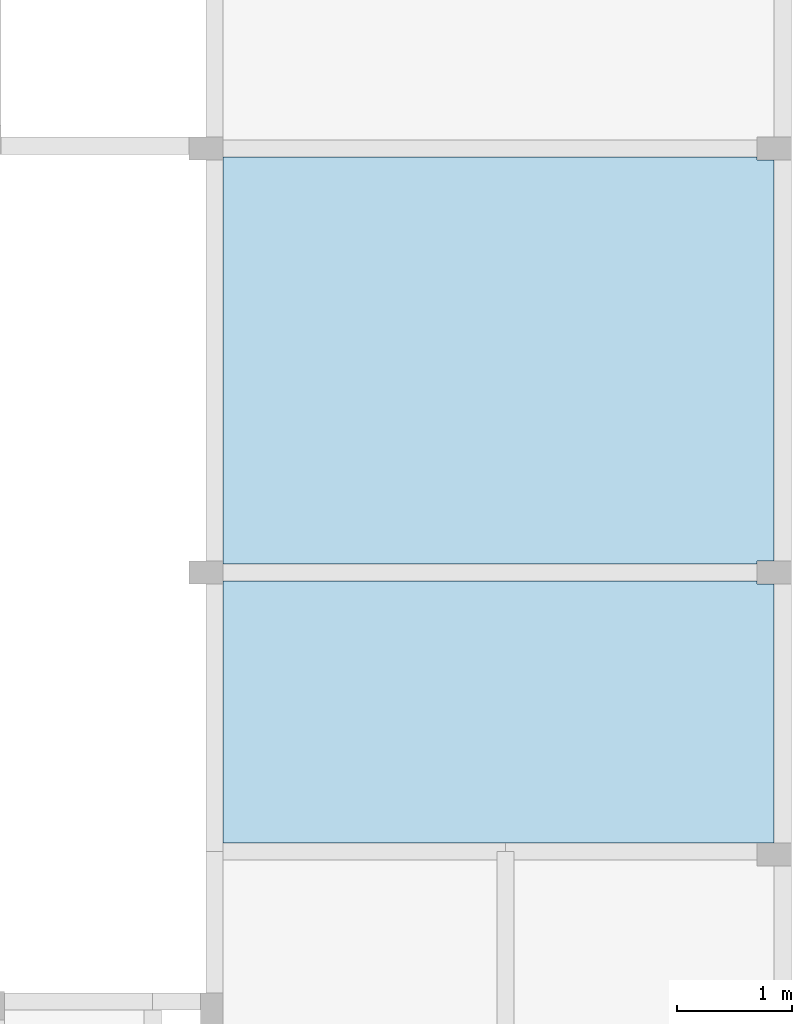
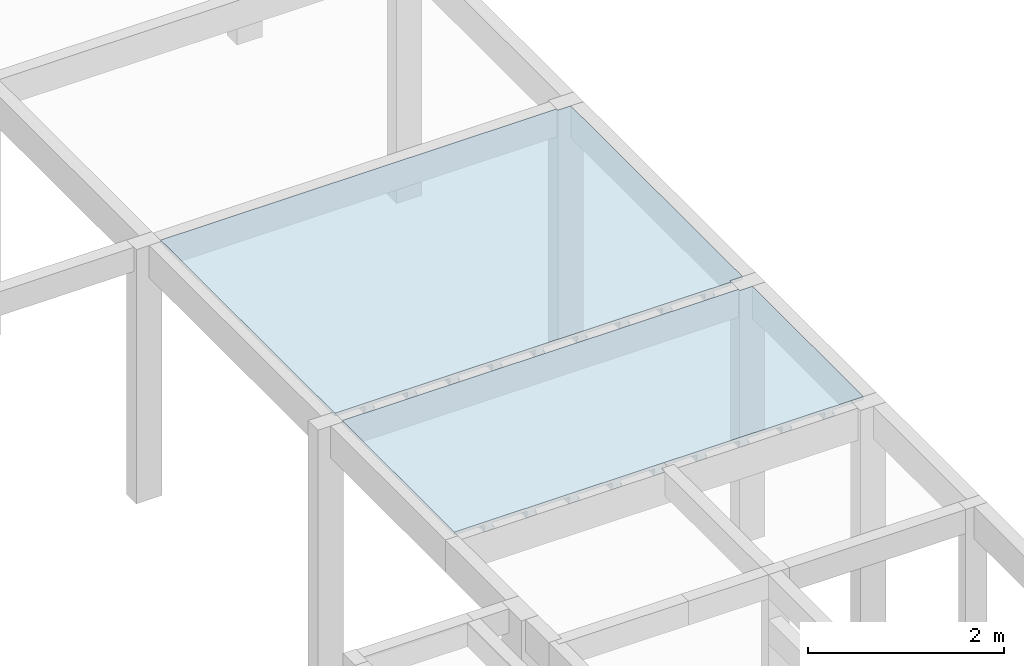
# One storey, part 9 of 11: 2 slabs.
"""IFC4 building model written with IfcOpenShell, lengths in centimetres."""

from ifc_helpers import new_model, si_unit, derived_unit, frame, origin_with_axes, place, context, project, spatial, polyline, outline, extrude, faceted_brep, material, element, save


model = new_model("IFC4")

# Units and contexts
model_context = context("Model", 3, precision=1e-05, world=origin_with_axes(), identifier="Body")
ifc_project = project(units=[si_unit("LENGTHUNIT", "METRE", prefix="CENTI"), si_unit("VOLUMEUNIT", "CUBIC_METRE"), si_unit("AREAUNIT", "SQUARE_METRE"), si_unit("POWERUNIT", "WATT"), si_unit("LUMINOUSFLUXUNIT", "LUMEN"), si_unit("ELECTRICCURRENTUNIT", "AMPERE"), si_unit("PRESSUREUNIT", "PASCAL", prefix="KILO"), si_unit("MASSUNIT", "GRAM", prefix="KILO"), si_unit("PLANEANGLEUNIT", "RADIAN"), derived_unit("VOLUMETRICFLOWRATEUNIT", [(si_unit("LENGTHUNIT", "METRE"), 3), (si_unit("TIMEUNIT", "SECOND"), -1)])], contexts=[model_context])

# Site, building, storey
site_placement = place(None, origin_with_axes())
site = spatial("IfcSite", under=ifc_project, at=site_placement)
building_placement = place(site_placement, frame((0.0, 0.0, -295.0)))
building = spatial("IfcBuilding", under=site, at=building_placement)
placement_1 = place(building_placement, origin_with_axes())
placement_2 = place(placement_1, frame((0.0, 0.0, 101.0), z_axis=(0.0, 0.0, 1.0), x_axis=(1.0, 0.0, 0.0)))
placement_3 = place(placement_2, frame((0.0, 0.0, 204.0), z_axis=(0.0, 0.0, 1.0), x_axis=(1.0, 0.0, 0.0)))
storey_placement = place(placement_3, frame((0.0, 0.0, 292.0), z_axis=(0.0, 0.0, 1.0), x_axis=(1.0, 0.0, 0.0)))
storey = spatial("IfcBuildingStorey", under=building, at=storey_placement, Name="PAVTO 01", CompositionType="ELEMENT", Elevation=302.0)

# Slabs
ifc_material = material(Name="Concreto")
slab_1_placement = place(storey_placement, frame((3761.24, -5953.5495, 0.0), z_axis=(0.0, 0.0, 1.0), x_axis=(1.0, 0.0, 0.0)))
element("IfcSlab", 1, at=slab_1_placement, inside=storey, material=ifc_material, Name="L107", PredefinedType="FLOOR", context=model_context, shape_type="SolidModel", body=[
    extrude(outline(polyline([(225.52, -175.0), (240.51, -175.0), (240.51, 174.999), (225.52, 174.999), (225.52, 177.499), (-240.51, 177.5), (-240.509, -177.499), (225.519, -177.499), (225.52, -175.0), (225.52, -175.0)])), frame((0.0, -0.0005, -4.0), z_axis=(0.0, 0.0, 1.0), x_axis=(1.0, 0.0, 0.0)), (0.0, 0.0, 1.0), 4.0),
    faceted_brep([(-5.0, -177.4995, -12.0), (-5.0, 177.499, -12.0), (5.0, 177.499, -12.0), (5.0, -177.4995, -12.0), (5.0, -177.4995, -4.0), (5.0, 177.499, -4.0), (-5.0, 177.499, -4.0), (-5.0, -177.4995, -4.0)], [[[0, 1, 2, 3]], [[4, 5, 6, 7]], [[4, 3, 5]], [[3, 2, 5]], [[5, 2, 6]], [[2, 1, 6]], [[6, 1, 7]], [[1, 0, 7]], [[7, 0, 4]], [[0, 3, 4]]]),
    faceted_brep([(-6.5, -177.4995, -12.0), (-6.5, 177.499, -12.0), (-5.0, 177.499, -12.0), (-5.0, -177.4995, -12.0), (-5.0, -177.4995, -9.0), (-5.0, 177.499, -9.0), (-6.5, 177.499, -9.0), (-6.5, -177.4995, -9.0)], [[[0, 1, 2, 3]], [[4, 5, 6, 7]], [[4, 3, 5]], [[3, 2, 5]], [[5, 2, 6]], [[2, 1, 6]], [[6, 1, 7]], [[1, 0, 7]], [[7, 0, 4]], [[0, 3, 4]]]),
    faceted_brep([(5.0, -177.4995, -12.0), (5.0, 177.499, -12.0), (6.5, 177.499, -12.0), (6.5, -177.4995, -12.0), (6.5, -177.4995, -9.0), (6.5, 177.499, -9.0), (5.0, 177.499, -9.0), (5.0, -177.4995, -9.0)], [[[0, 1, 2, 3]], [[4, 5, 6, 7]], [[4, 3, 5]], [[3, 2, 5]], [[5, 2, 6]], [[2, 1, 6]], [[6, 1, 7]], [[1, 0, 7]], [[7, 0, 4]], [[0, 3, 4]]]),
    faceted_brep([(-55.0, -177.4995, -12.0), (-55.0, 177.499, -12.0), (-45.0, 177.499, -12.0), (-45.0, -177.4995, -12.0), (-45.0, -177.4995, -4.0), (-45.0, 177.499, -4.0), (-55.0, 177.499, -4.0), (-55.0, -177.4995, -4.0)], [[[0, 1, 2, 3]], [[4, 5, 6, 7]], [[4, 3, 5]], [[3, 2, 5]], [[5, 2, 6]], [[2, 1, 6]], [[6, 1, 7]], [[1, 0, 7]], [[7, 0, 4]], [[0, 3, 4]]]),
    faceted_brep([(-56.5, -177.4995, -12.0), (-56.5, 177.499, -12.0), (-55.0, 177.499, -12.0), (-55.0, -177.4995, -12.0), (-55.0, -177.4995, -9.0), (-55.0, 177.499, -9.0), (-56.5, 177.499, -9.0), (-56.5, -177.4995, -9.0)], [[[0, 1, 2, 3]], [[4, 5, 6, 7]], [[4, 3, 5]], [[3, 2, 5]], [[5, 2, 6]], [[2, 1, 6]], [[6, 1, 7]], [[1, 0, 7]], [[7, 0, 4]], [[0, 3, 4]]]),
    faceted_brep([(-45.0, -177.4995, -12.0), (-45.0, 177.499, -12.0), (-43.5, 177.499, -12.0), (-43.5, -177.4995, -12.0), (-43.5, -177.4995, -9.0), (-43.5, 177.499, -9.0), (-45.0, 177.499, -9.0), (-45.0, -177.4995, -9.0)], [[[0, 1, 2, 3]], [[4, 5, 6, 7]], [[4, 3, 5]], [[3, 2, 5]], [[5, 2, 6]], [[2, 1, 6]], [[6, 1, 7]], [[1, 0, 7]], [[7, 0, 4]], [[0, 3, 4]]]),
    faceted_brep([(-105.0, -177.4995, -12.0), (-105.0, 177.499, -12.0), (-95.0, 177.499, -12.0), (-95.0, -177.4995, -12.0), (-95.0, -177.4995, -4.0), (-95.0, 177.499, -4.0), (-105.0, 177.499, -4.0), (-105.0, -177.4995, -4.0)], [[[0, 1, 2, 3]], [[4, 5, 6, 7]], [[4, 3, 5]], [[3, 2, 5]], [[5, 2, 6]], [[2, 1, 6]], [[6, 1, 7]], [[1, 0, 7]], [[7, 0, 4]], [[0, 3, 4]]]),
    faceted_brep([(-106.5, -177.4995, -12.0), (-106.5, 177.499, -12.0), (-105.0, 177.499, -12.0), (-105.0, -177.4995, -12.0), (-105.0, -177.4995, -9.0), (-105.0, 177.499, -9.0), (-106.5, 177.499, -9.0), (-106.5, -177.4995, -9.0)], [[[0, 1, 2, 3]], [[4, 5, 6, 7]], [[4, 3, 5]], [[3, 2, 5]], [[5, 2, 6]], [[2, 1, 6]], [[6, 1, 7]], [[1, 0, 7]], [[7, 0, 4]], [[0, 3, 4]]]),
    faceted_brep([(-95.0, -177.4995, -12.0), (-95.0, 177.499, -12.0), (-93.5, 177.499, -12.0), (-93.5, -177.4995, -12.0), (-93.5, -177.4995, -9.0), (-93.5, 177.499, -9.0), (-95.0, 177.499, -9.0), (-95.0, -177.4995, -9.0)], [[[0, 1, 2, 3]], [[4, 5, 6, 7]], [[4, 3, 5]], [[3, 2, 5]], [[5, 2, 6]], [[2, 1, 6]], [[6, 1, 7]], [[1, 0, 7]], [[7, 0, 4]], [[0, 3, 4]]]),
    faceted_brep([(-155.0, -177.4995, -12.0), (-155.0, 177.499, -12.0), (-145.0, 177.499, -12.0), (-145.0, -177.4995, -12.0), (-145.0, -177.4995, -4.0), (-145.0, 177.499, -4.0), (-155.0, 177.499, -4.0), (-155.0, -177.4995, -4.0)], [[[0, 1, 2, 3]], [[4, 5, 6, 7]], [[4, 3, 5]], [[3, 2, 5]], [[5, 2, 6]], [[2, 1, 6]], [[6, 1, 7]], [[1, 0, 7]], [[7, 0, 4]], [[0, 3, 4]]]),
    faceted_brep([(-156.5, -177.4995, -12.0), (-156.5, 177.499, -12.0), (-155.0, 177.499, -12.0), (-155.0, -177.4995, -12.0), (-155.0, -177.4995, -9.0), (-155.0, 177.499, -9.0), (-156.5, 177.499, -9.0), (-156.5, -177.4995, -9.0)], [[[0, 1, 2, 3]], [[4, 5, 6, 7]], [[4, 3, 5]], [[3, 2, 5]], [[5, 2, 6]], [[2, 1, 6]], [[6, 1, 7]], [[1, 0, 7]], [[7, 0, 4]], [[0, 3, 4]]]),
    faceted_brep([(-145.0, -177.4995, -12.0), (-145.0, 177.499, -12.0), (-143.5, 177.499, -12.0), (-143.5, -177.4995, -12.0), (-143.5, -177.4995, -9.0), (-143.5, 177.499, -9.0), (-145.0, 177.499, -9.0), (-145.0, -177.4995, -9.0)], [[[0, 1, 2, 3]], [[4, 5, 6, 7]], [[4, 3, 5]], [[3, 2, 5]], [[5, 2, 6]], [[2, 1, 6]], [[6, 1, 7]], [[1, 0, 7]], [[7, 0, 4]], [[0, 3, 4]]]),
    faceted_brep([(-205.0, -177.4995, -12.0), (-205.0, 177.499, -12.0), (-195.0, 177.499, -12.0), (-195.0, -177.4995, -12.0), (-195.0, -177.4995, -4.0), (-195.0, 177.499, -4.0), (-205.0, 177.499, -4.0), (-205.0, -177.4995, -4.0)], [[[0, 1, 2, 3]], [[4, 5, 6, 7]], [[4, 3, 5]], [[3, 2, 5]], [[5, 2, 6]], [[2, 1, 6]], [[6, 1, 7]], [[1, 0, 7]], [[7, 0, 4]], [[0, 3, 4]]]),
    faceted_brep([(-206.5, -177.4995, -12.0), (-206.5, 177.499, -12.0), (-205.0, 177.499, -12.0), (-205.0, -177.4995, -12.0), (-205.0, -177.4995, -9.0), (-205.0, 177.499, -9.0), (-206.5, 177.499, -9.0), (-206.5, -177.4995, -9.0)], [[[0, 1, 2, 3]], [[4, 5, 6, 7]], [[4, 3, 5]], [[3, 2, 5]], [[5, 2, 6]], [[2, 1, 6]], [[6, 1, 7]], [[1, 0, 7]], [[7, 0, 4]], [[0, 3, 4]]]),
    faceted_brep([(-195.0, -177.4995, -12.0), (-195.0, 177.499, -12.0), (-193.5, 177.499, -12.0), (-193.5, -177.4995, -12.0), (-193.5, -177.4995, -9.0), (-193.5, 177.499, -9.0), (-195.0, 177.499, -9.0), (-195.0, -177.4995, -9.0)], [[[0, 1, 2, 3]], [[4, 5, 6, 7]], [[4, 3, 5]], [[3, 2, 5]], [[5, 2, 6]], [[2, 1, 6]], [[6, 1, 7]], [[1, 0, 7]], [[7, 0, 4]], [[0, 3, 4]]]),
    faceted_brep([(45.0, -177.4995, -12.0), (45.0, 177.499, -12.0), (55.0, 177.499, -12.0), (55.0, -177.4995, -12.0), (55.0, -177.4995, -4.0), (55.0, 177.499, -4.0), (45.0, 177.499, -4.0), (45.0, -177.4995, -4.0)], [[[0, 1, 2, 3]], [[4, 5, 6, 7]], [[4, 3, 5]], [[3, 2, 5]], [[5, 2, 6]], [[2, 1, 6]], [[6, 1, 7]], [[1, 0, 7]], [[7, 0, 4]], [[0, 3, 4]]]),
    faceted_brep([(43.5, -177.4995, -12.0), (43.5, 177.499, -12.0), (45.0, 177.499, -12.0), (45.0, -177.4995, -12.0), (45.0, -177.4995, -9.0), (45.0, 177.499, -9.0), (43.5, 177.499, -9.0), (43.5, -177.4995, -9.0)], [[[0, 1, 2, 3]], [[4, 5, 6, 7]], [[4, 3, 5]], [[3, 2, 5]], [[5, 2, 6]], [[2, 1, 6]], [[6, 1, 7]], [[1, 0, 7]], [[7, 0, 4]], [[0, 3, 4]]]),
    faceted_brep([(55.0, -177.4995, -12.0), (55.0, 177.499, -12.0), (56.5, 177.499, -12.0), (56.5, -177.4995, -12.0), (56.5, -177.4995, -9.0), (56.5, 177.499, -9.0), (55.0, 177.499, -9.0), (55.0, -177.4995, -9.0)], [[[0, 1, 2, 3]], [[4, 5, 6, 7]], [[4, 3, 5]], [[3, 2, 5]], [[5, 2, 6]], [[2, 1, 6]], [[6, 1, 7]], [[1, 0, 7]], [[7, 0, 4]], [[0, 3, 4]]]),
    faceted_brep([(95.0, -177.4995, -12.0), (95.0, 177.499, -12.0), (105.0, 177.499, -12.0), (105.0, -177.4995, -12.0), (105.0, -177.4995, -4.0), (105.0, 177.499, -4.0), (95.0, 177.499, -4.0), (95.0, -177.4995, -4.0)], [[[0, 1, 2, 3]], [[4, 5, 6, 7]], [[4, 3, 5]], [[3, 2, 5]], [[5, 2, 6]], [[2, 1, 6]], [[6, 1, 7]], [[1, 0, 7]], [[7, 0, 4]], [[0, 3, 4]]]),
    faceted_brep([(93.5, -177.4995, -12.0), (93.5, 177.499, -12.0), (95.0, 177.499, -12.0), (95.0, -177.4995, -12.0), (95.0, -177.4995, -9.0), (95.0, 177.499, -9.0), (93.5, 177.499, -9.0), (93.5, -177.4995, -9.0)], [[[0, 1, 2, 3]], [[4, 5, 6, 7]], [[4, 3, 5]], [[3, 2, 5]], [[5, 2, 6]], [[2, 1, 6]], [[6, 1, 7]], [[1, 0, 7]], [[7, 0, 4]], [[0, 3, 4]]]),
    faceted_brep([(105.0, -177.4995, -12.0), (105.0, 177.499, -12.0), (106.5, 177.499, -12.0), (106.5, -177.4995, -12.0), (106.5, -177.4995, -9.0), (106.5, 177.499, -9.0), (105.0, 177.499, -9.0), (105.0, -177.4995, -9.0)], [[[0, 1, 2, 3]], [[4, 5, 6, 7]], [[4, 3, 5]], [[3, 2, 5]], [[5, 2, 6]], [[2, 1, 6]], [[6, 1, 7]], [[1, 0, 7]], [[7, 0, 4]], [[0, 3, 4]]]),
    faceted_brep([(145.0, -177.4995, -12.0), (145.0, 177.499, -12.0), (155.0, 177.499, -12.0), (155.0, -177.4995, -12.0), (155.0, -177.4995, -4.0), (155.0, 177.499, -4.0), (145.0, 177.499, -4.0), (145.0, -177.4995, -4.0)], [[[0, 1, 2, 3]], [[4, 5, 6, 7]], [[4, 3, 5]], [[3, 2, 5]], [[5, 2, 6]], [[2, 1, 6]], [[6, 1, 7]], [[1, 0, 7]], [[7, 0, 4]], [[0, 3, 4]]]),
    faceted_brep([(143.5, -177.4995, -12.0), (143.5, 177.499, -12.0), (145.0, 177.499, -12.0), (145.0, -177.4995, -12.0), (145.0, -177.4995, -9.0), (145.0, 177.499, -9.0), (143.5, 177.499, -9.0), (143.5, -177.4995, -9.0)], [[[0, 1, 2, 3]], [[4, 5, 6, 7]], [[4, 3, 5]], [[3, 2, 5]], [[5, 2, 6]], [[2, 1, 6]], [[6, 1, 7]], [[1, 0, 7]], [[7, 0, 4]], [[0, 3, 4]]]),
    faceted_brep([(155.0, -177.4995, -12.0), (155.0, 177.499, -12.0), (156.5, 177.499, -12.0), (156.5, -177.4995, -12.0), (156.5, -177.4995, -9.0), (156.5, 177.499, -9.0), (155.0, 177.499, -9.0), (155.0, -177.4995, -9.0)], [[[0, 1, 2, 3]], [[4, 5, 6, 7]], [[4, 3, 5]], [[3, 2, 5]], [[5, 2, 6]], [[2, 1, 6]], [[6, 1, 7]], [[1, 0, 7]], [[7, 0, 4]], [[0, 3, 4]]]),
    faceted_brep([(195.0, -177.4995, -12.0), (195.0, 177.499, -12.0), (205.0, 177.499, -12.0), (205.0, -177.4995, -12.0), (205.0, -177.4995, -4.0), (205.0, 177.499, -4.0), (195.0, 177.499, -4.0), (195.0, -177.4995, -4.0)], [[[0, 1, 2, 3]], [[4, 5, 6, 7]], [[4, 3, 5]], [[3, 2, 5]], [[5, 2, 6]], [[2, 1, 6]], [[6, 1, 7]], [[1, 0, 7]], [[7, 0, 4]], [[0, 3, 4]]]),
    faceted_brep([(193.5, -177.4995, -12.0), (193.5, 177.499, -12.0), (195.0, 177.499, -12.0), (195.0, -177.4995, -12.0), (195.0, -177.4995, -9.0), (195.0, 177.499, -9.0), (193.5, 177.499, -9.0), (193.5, -177.4995, -9.0)], [[[0, 1, 2, 3]], [[4, 5, 6, 7]], [[4, 3, 5]], [[3, 2, 5]], [[5, 2, 6]], [[2, 1, 6]], [[6, 1, 7]], [[1, 0, 7]], [[7, 0, 4]], [[0, 3, 4]]]),
    faceted_brep([(205.0, -177.4995, -12.0), (205.0, 177.499, -12.0), (206.5, 177.499, -12.0), (206.5, -177.4995, -12.0), (206.5, -177.4995, -9.0), (206.5, 177.499, -9.0), (205.0, 177.499, -9.0), (205.0, -177.4995, -9.0)], [[[0, 1, 2, 3]], [[4, 5, 6, 7]], [[4, 3, 5]], [[3, 2, 5]], [[5, 2, 6]], [[2, 1, 6]], [[6, 1, 7]], [[1, 0, 7]], [[7, 0, 4]], [[0, 3, 4]]]),
])
slab_2_placement = place(storey_placement, frame((3761.2395, -6260.35, 0.0), z_axis=(0.0, 0.0, 1.0), x_axis=(1.0, 0.0, 0.0)))
element("IfcSlab", 2, at=slab_2_placement, inside=storey, material=ifc_material, Name="L108", PredefinedType="FLOOR", context=model_context, shape_type="SolidModel", body=[
    extrude(outline(polyline([(240.509, 111.799), (225.52, 111.799), (225.519, 114.299), (-240.509, 114.3), (-240.51, -114.299), (240.509, -114.3), (240.509, 111.799), (240.509, 111.799)])), frame((0.0005, 0.0, -4.0), z_axis=(0.0, 0.0, 1.0), x_axis=(1.0, 0.0, 0.0)), (0.0, 0.0, 1.0), 4.0),
    faceted_brep([(-4.9995, -114.2995, -12.0), (-4.9995, 114.2995, -12.0), (5.0005, 114.2995, -12.0), (5.0005, -114.2995, -12.0), (5.0005, -114.2995, -4.0), (5.0005, 114.2995, -4.0), (-4.9995, 114.2995, -4.0), (-4.9995, -114.2995, -4.0)], [[[0, 1, 2, 3]], [[4, 5, 6, 7]], [[4, 3, 5]], [[3, 2, 5]], [[5, 2, 6]], [[2, 1, 6]], [[6, 1, 7]], [[1, 0, 7]], [[7, 0, 4]], [[0, 3, 4]]]),
    faceted_brep([(-6.4995, -114.2995, -12.0), (-6.4995, 114.2995, -12.0), (-4.9995, 114.2995, -12.0), (-4.9995, -114.2995, -12.0), (-4.9995, -114.2995, -9.0), (-4.9995, 114.2995, -9.0), (-6.4995, 114.2995, -9.0), (-6.4995, -114.2995, -9.0)], [[[0, 1, 2, 3]], [[4, 5, 6, 7]], [[4, 3, 5]], [[3, 2, 5]], [[5, 2, 6]], [[2, 1, 6]], [[6, 1, 7]], [[1, 0, 7]], [[7, 0, 4]], [[0, 3, 4]]]),
    faceted_brep([(5.0005, -114.2995, -12.0), (5.0005, 114.2995, -12.0), (6.5005, 114.2995, -12.0), (6.5005, -114.2995, -12.0), (6.5005, -114.2995, -9.0), (6.5005, 114.2995, -9.0), (5.0005, 114.2995, -9.0), (5.0005, -114.2995, -9.0)], [[[0, 1, 2, 3]], [[4, 5, 6, 7]], [[4, 3, 5]], [[3, 2, 5]], [[5, 2, 6]], [[2, 1, 6]], [[6, 1, 7]], [[1, 0, 7]], [[7, 0, 4]], [[0, 3, 4]]]),
    faceted_brep([(-54.9995, -114.2995, -12.0), (-54.9995, 114.2995, -12.0), (-44.9995, 114.2995, -12.0), (-44.9995, -114.2995, -12.0), (-44.9995, -114.2995, -4.0), (-44.9995, 114.2995, -4.0), (-54.9995, 114.2995, -4.0), (-54.9995, -114.2995, -4.0)], [[[0, 1, 2, 3]], [[4, 5, 6, 7]], [[4, 3, 5]], [[3, 2, 5]], [[5, 2, 6]], [[2, 1, 6]], [[6, 1, 7]], [[1, 0, 7]], [[7, 0, 4]], [[0, 3, 4]]]),
    faceted_brep([(-56.4995, -114.2995, -12.0), (-56.4995, 114.2995, -12.0), (-54.9995, 114.2995, -12.0), (-54.9995, -114.2995, -12.0), (-54.9995, -114.2995, -9.0), (-54.9995, 114.2995, -9.0), (-56.4995, 114.2995, -9.0), (-56.4995, -114.2995, -9.0)], [[[0, 1, 2, 3]], [[4, 5, 6, 7]], [[4, 3, 5]], [[3, 2, 5]], [[5, 2, 6]], [[2, 1, 6]], [[6, 1, 7]], [[1, 0, 7]], [[7, 0, 4]], [[0, 3, 4]]]),
    faceted_brep([(-44.9995, -114.2995, -12.0), (-44.9995, 114.2995, -12.0), (-43.4995, 114.2995, -12.0), (-43.4995, -114.2995, -12.0), (-43.4995, -114.2995, -9.0), (-43.4995, 114.2995, -9.0), (-44.9995, 114.2995, -9.0), (-44.9995, -114.2995, -9.0)], [[[0, 1, 2, 3]], [[4, 5, 6, 7]], [[4, 3, 5]], [[3, 2, 5]], [[5, 2, 6]], [[2, 1, 6]], [[6, 1, 7]], [[1, 0, 7]], [[7, 0, 4]], [[0, 3, 4]]]),
    faceted_brep([(-104.9995, -114.2995, -12.0), (-104.9995, 114.2995, -12.0), (-94.9995, 114.2995, -12.0), (-94.9995, -114.2995, -12.0), (-94.9995, -114.2995, -4.0), (-94.9995, 114.2995, -4.0), (-104.9995, 114.2995, -4.0), (-104.9995, -114.2995, -4.0)], [[[0, 1, 2, 3]], [[4, 5, 6, 7]], [[4, 3, 5]], [[3, 2, 5]], [[5, 2, 6]], [[2, 1, 6]], [[6, 1, 7]], [[1, 0, 7]], [[7, 0, 4]], [[0, 3, 4]]]),
    faceted_brep([(-106.4995, -114.2995, -12.0), (-106.4995, 114.2995, -12.0), (-104.9995, 114.2995, -12.0), (-104.9995, -114.2995, -12.0), (-104.9995, -114.2995, -9.0), (-104.9995, 114.2995, -9.0), (-106.4995, 114.2995, -9.0), (-106.4995, -114.2995, -9.0)], [[[0, 1, 2, 3]], [[4, 5, 6, 7]], [[4, 3, 5]], [[3, 2, 5]], [[5, 2, 6]], [[2, 1, 6]], [[6, 1, 7]], [[1, 0, 7]], [[7, 0, 4]], [[0, 3, 4]]]),
    faceted_brep([(-94.9995, -114.2995, -12.0), (-94.9995, 114.2995, -12.0), (-93.4995, 114.2995, -12.0), (-93.4995, -114.2995, -12.0), (-93.4995, -114.2995, -9.0), (-93.4995, 114.2995, -9.0), (-94.9995, 114.2995, -9.0), (-94.9995, -114.2995, -9.0)], [[[0, 1, 2, 3]], [[4, 5, 6, 7]], [[4, 3, 5]], [[3, 2, 5]], [[5, 2, 6]], [[2, 1, 6]], [[6, 1, 7]], [[1, 0, 7]], [[7, 0, 4]], [[0, 3, 4]]]),
    faceted_brep([(-154.9995, -114.2995, -12.0), (-154.9995, 114.2995, -12.0), (-144.9995, 114.2995, -12.0), (-144.9995, -114.2995, -12.0), (-144.9995, -114.2995, -4.0), (-144.9995, 114.2995, -4.0), (-154.9995, 114.2995, -4.0), (-154.9995, -114.2995, -4.0)], [[[0, 1, 2, 3]], [[4, 5, 6, 7]], [[4, 3, 5]], [[3, 2, 5]], [[5, 2, 6]], [[2, 1, 6]], [[6, 1, 7]], [[1, 0, 7]], [[7, 0, 4]], [[0, 3, 4]]]),
    faceted_brep([(-156.4995, -114.2995, -12.0), (-156.4995, 114.2995, -12.0), (-154.9995, 114.2995, -12.0), (-154.9995, -114.2995, -12.0), (-154.9995, -114.2995, -9.0), (-154.9995, 114.2995, -9.0), (-156.4995, 114.2995, -9.0), (-156.4995, -114.2995, -9.0)], [[[0, 1, 2, 3]], [[4, 5, 6, 7]], [[4, 3, 5]], [[3, 2, 5]], [[5, 2, 6]], [[2, 1, 6]], [[6, 1, 7]], [[1, 0, 7]], [[7, 0, 4]], [[0, 3, 4]]]),
    faceted_brep([(-144.9995, -114.2995, -12.0), (-144.9995, 114.2995, -12.0), (-143.4995, 114.2995, -12.0), (-143.4995, -114.2995, -12.0), (-143.4995, -114.2995, -9.0), (-143.4995, 114.2995, -9.0), (-144.9995, 114.2995, -9.0), (-144.9995, -114.2995, -9.0)], [[[0, 1, 2, 3]], [[4, 5, 6, 7]], [[4, 3, 5]], [[3, 2, 5]], [[5, 2, 6]], [[2, 1, 6]], [[6, 1, 7]], [[1, 0, 7]], [[7, 0, 4]], [[0, 3, 4]]]),
    faceted_brep([(-204.9995, -114.2995, -12.0), (-204.9995, 114.2995, -12.0), (-194.9995, 114.2995, -12.0), (-194.9995, -114.2995, -12.0), (-194.9995, -114.2995, -4.0), (-194.9995, 114.2995, -4.0), (-204.9995, 114.2995, -4.0), (-204.9995, -114.2995, -4.0)], [[[0, 1, 2, 3]], [[4, 5, 6, 7]], [[4, 3, 5]], [[3, 2, 5]], [[5, 2, 6]], [[2, 1, 6]], [[6, 1, 7]], [[1, 0, 7]], [[7, 0, 4]], [[0, 3, 4]]]),
    faceted_brep([(-206.4995, -114.2995, -12.0), (-206.4995, 114.2995, -12.0), (-204.9995, 114.2995, -12.0), (-204.9995, -114.2995, -12.0), (-204.9995, -114.2995, -9.0), (-204.9995, 114.2995, -9.0), (-206.4995, 114.2995, -9.0), (-206.4995, -114.2995, -9.0)], [[[0, 1, 2, 3]], [[4, 5, 6, 7]], [[4, 3, 5]], [[3, 2, 5]], [[5, 2, 6]], [[2, 1, 6]], [[6, 1, 7]], [[1, 0, 7]], [[7, 0, 4]], [[0, 3, 4]]]),
    faceted_brep([(-194.9995, -114.2995, -12.0), (-194.9995, 114.2995, -12.0), (-193.4995, 114.2995, -12.0), (-193.4995, -114.2995, -12.0), (-193.4995, -114.2995, -9.0), (-193.4995, 114.2995, -9.0), (-194.9995, 114.2995, -9.0), (-194.9995, -114.2995, -9.0)], [[[0, 1, 2, 3]], [[4, 5, 6, 7]], [[4, 3, 5]], [[3, 2, 5]], [[5, 2, 6]], [[2, 1, 6]], [[6, 1, 7]], [[1, 0, 7]], [[7, 0, 4]], [[0, 3, 4]]]),
    faceted_brep([(45.0005, -114.2995, -12.0), (45.0005, 114.2995, -12.0), (55.0005, 114.2995, -12.0), (55.0005, -114.2995, -12.0), (55.0005, -114.2995, -4.0), (55.0005, 114.2995, -4.0), (45.0005, 114.2995, -4.0), (45.0005, -114.2995, -4.0)], [[[0, 1, 2, 3]], [[4, 5, 6, 7]], [[4, 3, 5]], [[3, 2, 5]], [[5, 2, 6]], [[2, 1, 6]], [[6, 1, 7]], [[1, 0, 7]], [[7, 0, 4]], [[0, 3, 4]]]),
    faceted_brep([(43.5005, -114.2995, -12.0), (43.5005, 114.2995, -12.0), (45.0005, 114.2995, -12.0), (45.0005, -114.2995, -12.0), (45.0005, -114.2995, -9.0), (45.0005, 114.2995, -9.0), (43.5005, 114.2995, -9.0), (43.5005, -114.2995, -9.0)], [[[0, 1, 2, 3]], [[4, 5, 6, 7]], [[4, 3, 5]], [[3, 2, 5]], [[5, 2, 6]], [[2, 1, 6]], [[6, 1, 7]], [[1, 0, 7]], [[7, 0, 4]], [[0, 3, 4]]]),
    faceted_brep([(55.0005, -114.2995, -12.0), (55.0005, 114.2995, -12.0), (56.5005, 114.2995, -12.0), (56.5005, -114.2995, -12.0), (56.5005, -114.2995, -9.0), (56.5005, 114.2995, -9.0), (55.0005, 114.2995, -9.0), (55.0005, -114.2995, -9.0)], [[[0, 1, 2, 3]], [[4, 5, 6, 7]], [[4, 3, 5]], [[3, 2, 5]], [[5, 2, 6]], [[2, 1, 6]], [[6, 1, 7]], [[1, 0, 7]], [[7, 0, 4]], [[0, 3, 4]]]),
    faceted_brep([(95.0005, -114.2995, -12.0), (95.0005, 114.2995, -12.0), (105.0005, 114.2995, -12.0), (105.0005, -114.2995, -12.0), (105.0005, -114.2995, -4.0), (105.0005, 114.2995, -4.0), (95.0005, 114.2995, -4.0), (95.0005, -114.2995, -4.0)], [[[0, 1, 2, 3]], [[4, 5, 6, 7]], [[4, 3, 5]], [[3, 2, 5]], [[5, 2, 6]], [[2, 1, 6]], [[6, 1, 7]], [[1, 0, 7]], [[7, 0, 4]], [[0, 3, 4]]]),
    faceted_brep([(93.5005, -114.2995, -12.0), (93.5005, 114.2995, -12.0), (95.0005, 114.2995, -12.0), (95.0005, -114.2995, -12.0), (95.0005, -114.2995, -9.0), (95.0005, 114.2995, -9.0), (93.5005, 114.2995, -9.0), (93.5005, -114.2995, -9.0)], [[[0, 1, 2, 3]], [[4, 5, 6, 7]], [[4, 3, 5]], [[3, 2, 5]], [[5, 2, 6]], [[2, 1, 6]], [[6, 1, 7]], [[1, 0, 7]], [[7, 0, 4]], [[0, 3, 4]]]),
    faceted_brep([(105.0005, -114.2995, -12.0), (105.0005, 114.2995, -12.0), (106.5005, 114.2995, -12.0), (106.5005, -114.2995, -12.0), (106.5005, -114.2995, -9.0), (106.5005, 114.2995, -9.0), (105.0005, 114.2995, -9.0), (105.0005, -114.2995, -9.0)], [[[0, 1, 2, 3]], [[4, 5, 6, 7]], [[4, 3, 5]], [[3, 2, 5]], [[5, 2, 6]], [[2, 1, 6]], [[6, 1, 7]], [[1, 0, 7]], [[7, 0, 4]], [[0, 3, 4]]]),
    faceted_brep([(145.0005, -114.2995, -12.0), (145.0005, 114.2995, -12.0), (155.0005, 114.2995, -12.0), (155.0005, -114.2995, -12.0), (155.0005, -114.2995, -4.0), (155.0005, 114.2995, -4.0), (145.0005, 114.2995, -4.0), (145.0005, -114.2995, -4.0)], [[[0, 1, 2, 3]], [[4, 5, 6, 7]], [[4, 3, 5]], [[3, 2, 5]], [[5, 2, 6]], [[2, 1, 6]], [[6, 1, 7]], [[1, 0, 7]], [[7, 0, 4]], [[0, 3, 4]]]),
    faceted_brep([(143.5005, -114.2995, -12.0), (143.5005, 114.2995, -12.0), (145.0005, 114.2995, -12.0), (145.0005, -114.2995, -12.0), (145.0005, -114.2995, -9.0), (145.0005, 114.2995, -9.0), (143.5005, 114.2995, -9.0), (143.5005, -114.2995, -9.0)], [[[0, 1, 2, 3]], [[4, 5, 6, 7]], [[4, 3, 5]], [[3, 2, 5]], [[5, 2, 6]], [[2, 1, 6]], [[6, 1, 7]], [[1, 0, 7]], [[7, 0, 4]], [[0, 3, 4]]]),
    faceted_brep([(155.0005, -114.2995, -12.0), (155.0005, 114.2995, -12.0), (156.5005, 114.2995, -12.0), (156.5005, -114.2995, -12.0), (156.5005, -114.2995, -9.0), (156.5005, 114.2995, -9.0), (155.0005, 114.2995, -9.0), (155.0005, -114.2995, -9.0)], [[[0, 1, 2, 3]], [[4, 5, 6, 7]], [[4, 3, 5]], [[3, 2, 5]], [[5, 2, 6]], [[2, 1, 6]], [[6, 1, 7]], [[1, 0, 7]], [[7, 0, 4]], [[0, 3, 4]]]),
    faceted_brep([(195.0005, -114.2995, -12.0), (195.0005, 114.2995, -12.0), (205.0005, 114.2995, -12.0), (205.0005, -114.2995, -12.0), (205.0005, -114.2995, -4.0), (205.0005, 114.2995, -4.0), (195.0005, 114.2995, -4.0), (195.0005, -114.2995, -4.0)], [[[0, 1, 2, 3]], [[4, 5, 6, 7]], [[4, 3, 5]], [[3, 2, 5]], [[5, 2, 6]], [[2, 1, 6]], [[6, 1, 7]], [[1, 0, 7]], [[7, 0, 4]], [[0, 3, 4]]]),
    faceted_brep([(193.5005, -114.2995, -12.0), (193.5005, 114.2995, -12.0), (195.0005, 114.2995, -12.0), (195.0005, -114.2995, -12.0), (195.0005, -114.2995, -9.0), (195.0005, 114.2995, -9.0), (193.5005, 114.2995, -9.0), (193.5005, -114.2995, -9.0)], [[[0, 1, 2, 3]], [[4, 5, 6, 7]], [[4, 3, 5]], [[3, 2, 5]], [[5, 2, 6]], [[2, 1, 6]], [[6, 1, 7]], [[1, 0, 7]], [[7, 0, 4]], [[0, 3, 4]]]),
    faceted_brep([(205.0005, -114.2995, -12.0), (205.0005, 114.2995, -12.0), (206.5005, 114.2995, -12.0), (206.5005, -114.2995, -12.0), (206.5005, -114.2995, -9.0), (206.5005, 114.2995, -9.0), (205.0005, 114.2995, -9.0), (205.0005, -114.2995, -9.0)], [[[0, 1, 2, 3]], [[4, 5, 6, 7]], [[4, 3, 5]], [[3, 2, 5]], [[5, 2, 6]], [[2, 1, 6]], [[6, 1, 7]], [[1, 0, 7]], [[7, 0, 4]], [[0, 3, 4]]]),
])

save(model, "model.ifc")
